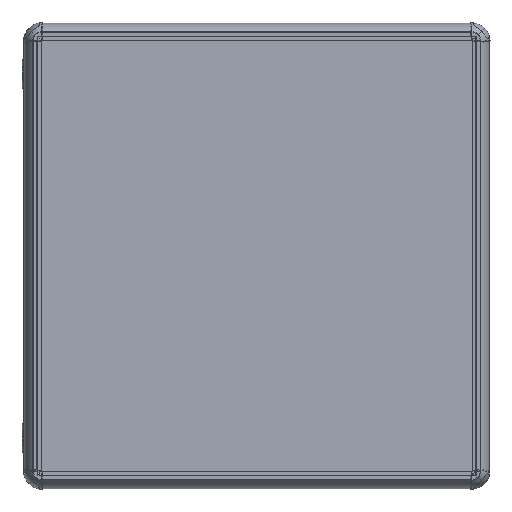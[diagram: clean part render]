
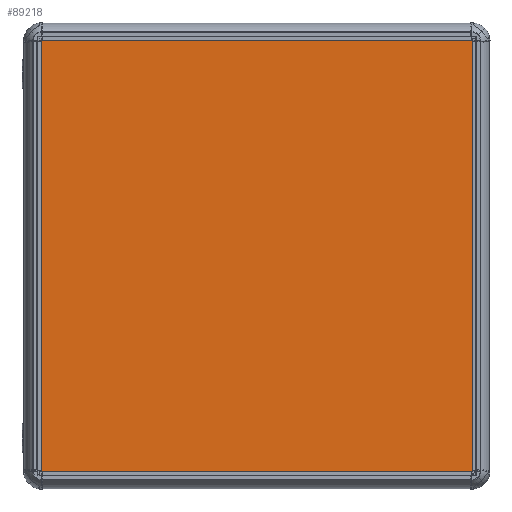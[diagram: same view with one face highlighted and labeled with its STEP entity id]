
A CAD part, top view. The second image highlights one B-rep face of the part: STEP entity #89218.
In plain terms, the highlighted planar face has unit normal (0, 0, 1).
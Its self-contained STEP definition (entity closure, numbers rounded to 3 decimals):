
#33 = VECTOR ( 'NONE', #3630, 1000. ) ;
#2024 = CARTESIAN_POINT ( 'NONE',  ( 300., -300., 2. ) ) ;
#3630 = DIRECTION ( 'NONE',  ( 1., 0., 0. ) ) ;
#4401 = DIRECTION ( 'NONE',  ( 0., 1., 0. ) ) ;
#6183 = DIRECTION ( 'NONE',  ( 1., 0., 0. ) ) ;
#9079 = VERTEX_POINT ( 'NONE', #107943 ) ;
#11999 = VERTEX_POINT ( 'NONE', #30246 ) ;
#20723 = EDGE_CURVE ( 'NONE', #50515, #9079, #41848, .T. ) ;
#24839 = VECTOR ( 'NONE', #4401, 1000. ) ;
#27379 = ORIENTED_EDGE ( 'NONE', *, *, #20723, .T. ) ;
#29124 = LINE ( 'NONE', #102574, #33 ) ;
#30246 = CARTESIAN_POINT ( 'NONE',  ( -300., 300., 2. ) ) ;
#30950 = VERTEX_POINT ( 'NONE', #110358 ) ;
#32497 = CARTESIAN_POINT ( 'NONE',  ( -300., 300., 2. ) ) ;
#33951 = DIRECTION ( 'NONE',  ( -1., 0., 0. ) ) ;
#41848 = LINE ( 'NONE', #138429, #24839 ) ;
#42836 = PLANE ( 'NONE',  #121508 ) ;
#50515 = VERTEX_POINT ( 'NONE', #2024 ) ;
#53266 = FACE_OUTER_BOUND ( 'NONE', #144177, .T. ) ;
#55422 = ORIENTED_EDGE ( 'NONE', *, *, #56331, .T. ) ;
#56331 = EDGE_CURVE ( 'NONE', #9079, #11999, #151455, .T. ) ;
#57221 = ORIENTED_EDGE ( 'NONE', *, *, #79502, .T. ) ;
#59557 = DIRECTION ( 'NONE',  ( 0., -1., 0. ) ) ;
#69016 = VECTOR ( 'NONE', #59557, 1000. ) ;
#76486 = CARTESIAN_POINT ( 'NONE',  ( 0., 0., 2. ) ) ;
#79502 = EDGE_CURVE ( 'NONE', #11999, #30950, #143363, .T. ) ;
#89218 = ADVANCED_FACE ( 'NONE', ( #53266 ), #42836, .T. ) ;
#89356 = CARTESIAN_POINT ( 'NONE',  ( -300., 300., 2. ) ) ;
#92774 = VECTOR ( 'NONE', #33951, 1000. ) ;
#102574 = CARTESIAN_POINT ( 'NONE',  ( -300., -300., 2. ) ) ;
#107943 = CARTESIAN_POINT ( 'NONE',  ( 300., 300., 2. ) ) ;
#110358 = CARTESIAN_POINT ( 'NONE',  ( -300., -300., 2. ) ) ;
#114718 = DIRECTION ( 'NONE',  ( 0., 0., 1. ) ) ;
#121508 = AXIS2_PLACEMENT_3D ( 'NONE', #76486, #114718, #6183 ) ;
#138429 = CARTESIAN_POINT ( 'NONE',  ( 300., 300., 2. ) ) ;
#143363 = LINE ( 'NONE', #32497, #69016 ) ;
#144177 = EDGE_LOOP ( 'NONE', ( #27379, #55422, #57221, #152082 ) ) ;
#149119 = EDGE_CURVE ( 'NONE', #30950, #50515, #29124, .T. ) ;
#151455 = LINE ( 'NONE', #89356, #92774 ) ;
#152082 = ORIENTED_EDGE ( 'NONE', *, *, #149119, .T. ) ;
